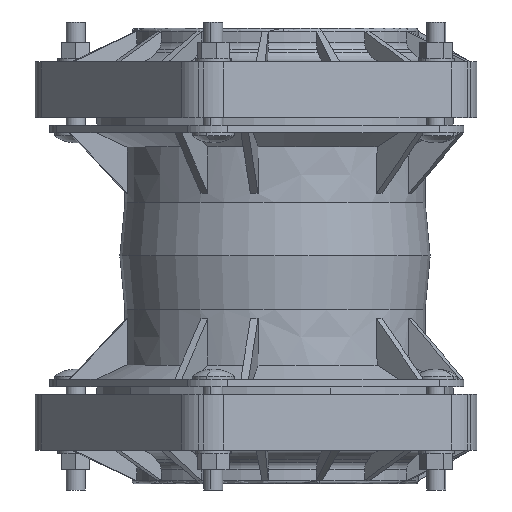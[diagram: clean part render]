
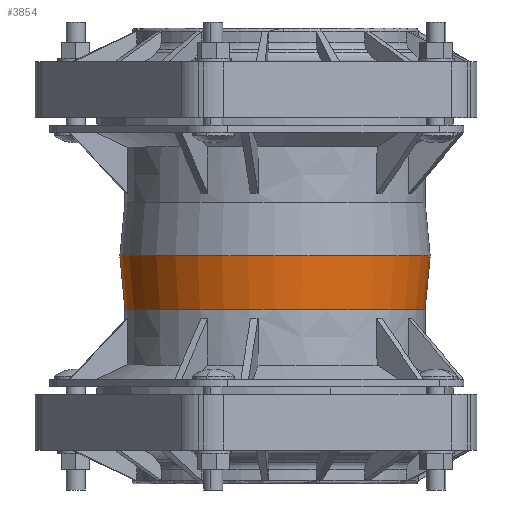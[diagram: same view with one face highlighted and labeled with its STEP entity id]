
A CAD part, left-side view. The second image highlights one B-rep face of the part: STEP entity #3854.
In plain terms, the highlighted conical face has half-angle 5.37 degrees and reference radius 128.165 mm.
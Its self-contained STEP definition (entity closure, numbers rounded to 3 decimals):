
#921=DIRECTION('',(0.,-0.094,-0.996));
#922=VECTOR('',#921,45.198);
#923=CARTESIAN_POINT('',(0.,130.28,0.));
#924=LINE('',#923,#922);
#925=DIRECTION('',(0.,0.094,-0.996));
#926=VECTOR('',#925,45.198);
#927=CARTESIAN_POINT('',(0.,-130.28,0.));
#928=LINE('',#927,#926);
#929=CARTESIAN_POINT('',(0.,0.,0.));
#930=DIRECTION('',(0.,0.,1.));
#931=DIRECTION('',(0.,1.,0.));
#932=AXIS2_PLACEMENT_3D('',#929,#930,#931);
#1002=CARTESIAN_POINT('',(0.,0.,-45.));
#1003=DIRECTION('',(0.,0.,1.));
#1004=DIRECTION('',(0.,1.,0.));
#1005=AXIS2_PLACEMENT_3D('',#1002,#1003,#1004);
#2745=CARTESIAN_POINT('',(0.,126.05,-45.));
#2747=VERTEX_POINT('',#2745);
#2749=CARTESIAN_POINT('',(0.,-126.05,-45.));
#2751=VERTEX_POINT('',#2749);
#2967=CARTESIAN_POINT('',(0.,130.28,0.));
#2968=CARTESIAN_POINT('',(0.,-130.28,0.));
#2969=VERTEX_POINT('',#2967);
#2970=VERTEX_POINT('',#2968);
#3841=CARTESIAN_POINT('',(0.,0.,-22.5));
#3842=DIRECTION('',(0.,0.,1.));
#3843=DIRECTION('',(0.,1.,0.));
#3844=AXIS2_PLACEMENT_3D('',#3841,#3842,#3843);
#3845=CONICAL_SURFACE('',#3844,128.165,5.37);
#3847=ORIENTED_EDGE('',*,*,#3846,.T.);
#3848=ORIENTED_EDGE('',*,*,#3836,.T.);
#3850=ORIENTED_EDGE('',*,*,#3849,.F.);
#3851=ORIENTED_EDGE('',*,*,#3832,.F.);
#3852=EDGE_LOOP('',(#3847,#3848,#3850,#3851));
#3853=FACE_OUTER_BOUND('',#3852,.F.);
#3854=ADVANCED_FACE('',(#3853),#3845,.T.);
#933=CIRCLE('',#932,130.28);
#1006=CIRCLE('',#1005,126.05);
#3832=EDGE_CURVE('',#2969,#2747,#924,.T.);
#3836=EDGE_CURVE('',#2970,#2751,#928,.T.);
#3846=EDGE_CURVE('',#2969,#2970,#933,.T.);
#3849=EDGE_CURVE('',#2747,#2751,#1006,.T.);
